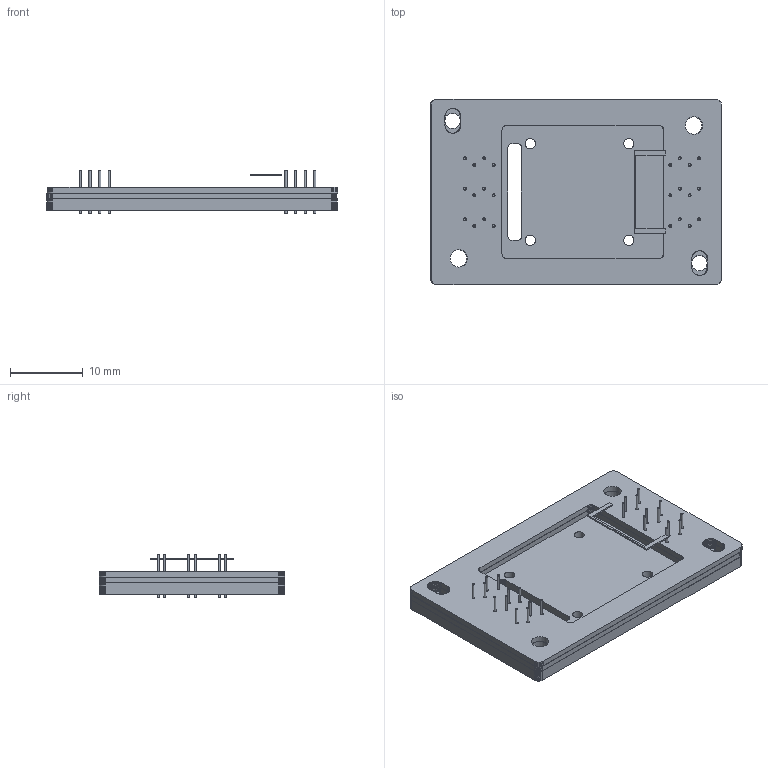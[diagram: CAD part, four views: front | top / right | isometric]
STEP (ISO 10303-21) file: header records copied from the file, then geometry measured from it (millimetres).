
FILE_DESCRIPTION(('Open CASCADE Model'),'2;1');
FILE_NAME('Open CASCADE Shape Model','2026-11-23T03:42:35',('Author'),( 'Open CASCADE'),'Open CASCADE STEP processor 7.9','Open CASCADE 7.9' ,'Unknown');
FILE_SCHEMA(('AUTOMOTIVE_DESIGN { 1 0 10303 214 1 1 1 1 }'));
Length unit declared in the file: millimetre
Products named in the file (29): R2K_winding_tool; fixed_winding_base; locking_guide_plate_1; locking_guide_plate_2; guide_1; guide_2; guide_3; guide_4; guide_5; guide_6; guide_7; guide_8; guide_9; guide_10; guide_11; guide_12; guide_13; guide_14; guide_15; guide_16; guide_17; guide_18; guide_19; guide_20; guide_21; guide_22; guide_23; guide_24; removable_wire_hold_tool
Assembly tree (28 placements, depth 2):
  R2K_winding_tool
    fixed_winding_base
    locking_guide_plate_1
    locking_guide_plate_2
    guide_1
    guide_2
    guide_3
    guide_4
    guide_5
    guide_6
    guide_7
    guide_8
    guide_9
    guide_10
    guide_11
    guide_12
    guide_13
    guide_14
    guide_15
    guide_16
    guide_17
    guide_18
    guide_19
    guide_20
    guide_21
    guide_22
    guide_23
    guide_24
    removable_wire_hold_tool
Bounding box: 40.1 x 25.5 x 6 mm (x, y, z)
Volume: 2279.8 mm3; surface area: 5125.8 mm2
Topology: 28 solids, 28 shells, 876 faces, 2460 edges, 1640 vertices
Faces by surface type: plane 792, cylinder 84
Full cylindrical faces by diameter (mm): 0.3 x24, 0.4 x48, 1.4 x4, 2.1 x2, 2.4 x4, 6 x2
Entity records: 61111 total; most frequent: CARTESIAN_POINT 10645, DIRECTION 9238, LINE 7044, VECTOR 7044, ORIENTED_EDGE 4920, PCURVE 4920, DEFINITIONAL_REPRESENTATION 4920, EDGE_CURVE 2460
